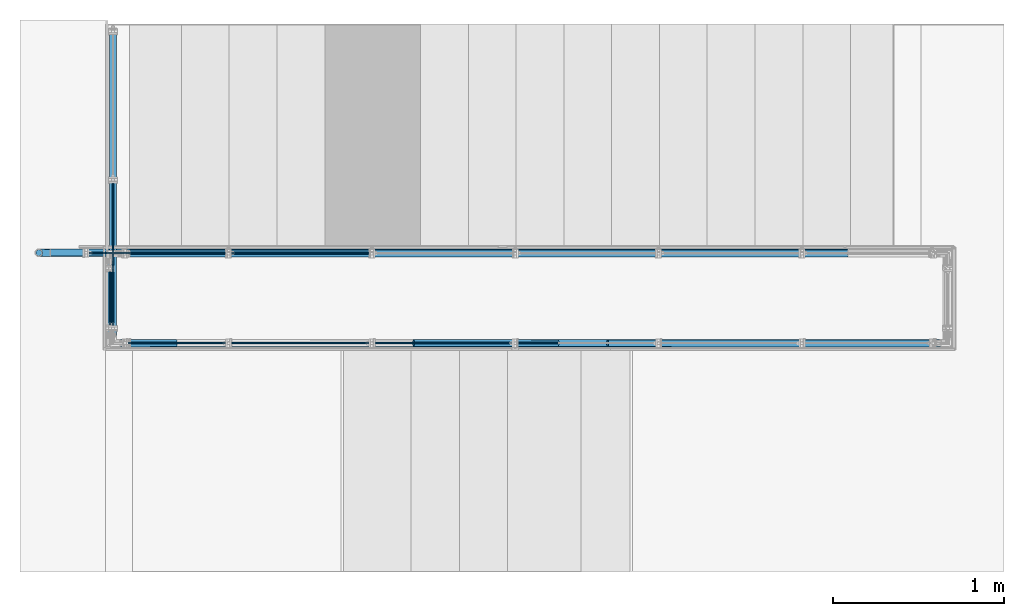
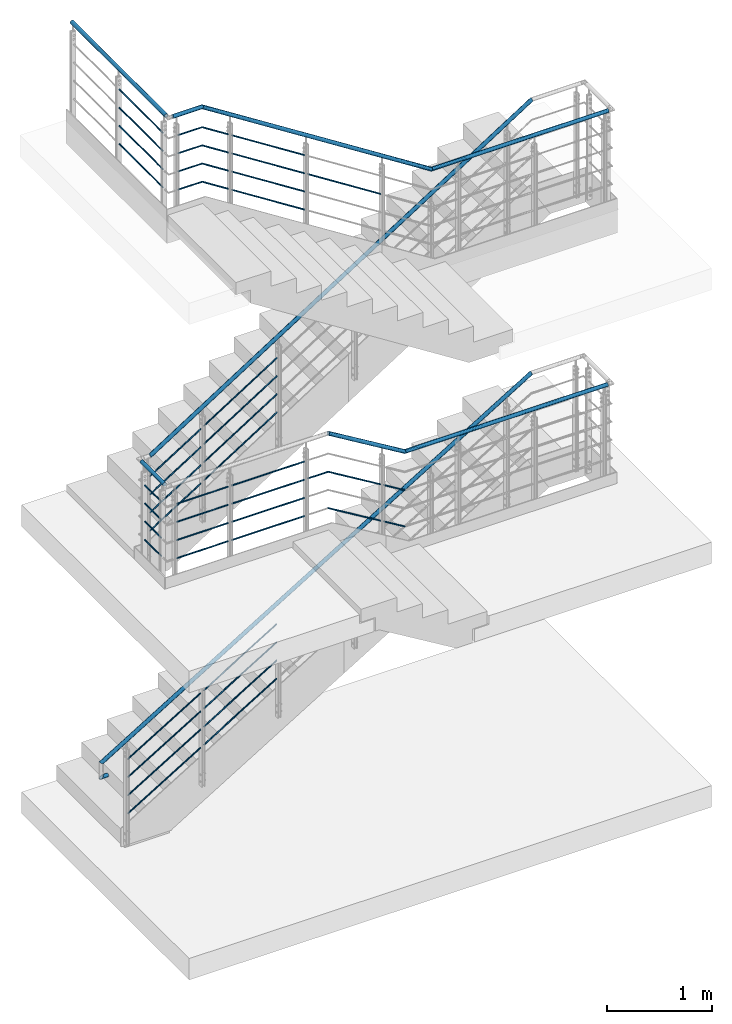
# One storey, part 12 of 98: 33 members, 27 beams.
"""IFC2X3 building model written with IfcOpenShell, lengths in millimetres."""

from ifc_helpers import new_model, entity, si_unit, converted_unit, frame, origin, origin_with_axes, origin_2d, place, context, project, spatial, circle, hollow_circle, extrude, clip, halfspace, material, element, save


model = new_model("IFC2X3")

# Units and contexts
model_context = context("Model", 3, precision=1e-09, world=origin_with_axes())
ifc_project = project(units=[si_unit("LENGTHUNIT", "METRE", prefix="MILLI"), si_unit("AREAUNIT", "SQUARE_METRE"), si_unit("VOLUMEUNIT", "CUBIC_METRE"), converted_unit("PLANEANGLEUNIT", "DEGREE", entity("IfcPlaneAngleMeasure", 0.01745329), si_unit("PLANEANGLEUNIT", "RADIAN"), dimensions=[0, 0, 0, 0, 0, 0, 0])], contexts=[model_context])

# Site, building, storey
site_placement = place(None, origin_with_axes())
site = spatial("IfcSite", under=ifc_project, at=site_placement, Name="Maybachstra?e 2, 71563 Affalterbach", CompositionType="ELEMENT")
building_placement = place(site_placement, origin_with_axes())
building = spatial("IfcBuilding", under=site, at=building_placement, Name="Struktur 1", CompositionType="ELEMENT")
storey_placement = place(building_placement, origin_with_axes())
storey = spatial("IfcBuildingStorey", under=building, at=storey_placement, Name="Default Storey", CompositionType="ELEMENT", Elevation=0.0)

# Beams
ifc_material_1 = material(Name="S235JR")
beam_1_placement = place(None, frame((7338.029157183, 368.75, 8323.799999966), z_axis=(0.0, 1.0, 0.0), x_axis=(0.0, 0.0, 1.0)))
element("IfcBeam", 1, at=beam_1_placement, inside=storey, material=ifc_material_1, Name="-", ObjectType="-", context=model_context, shape_type="SweptSolid", body=[
    extrude(circle(Radius=6.0, at=origin_2d()), origin(), (0.0, 0.0, -1.0), 833.5),
])
beam_2_placement = place(None, frame((7321.028157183, -150.25, 4028.8), z_axis=(0.0, 1.0, 0.0), x_axis=(0.0, 0.0, 1.0)))
element("IfcBeam", 2, at=beam_2_placement, inside=storey, material=ifc_material_1, Name="-", ObjectType="-", context=model_context, shape_type="SweptSolid", body=[
    extrude(circle(Radius=6.0, at=origin_2d()), origin(), (0.0, 0.0, -1.0), 313.5),
])

# Members
member_1_placement = place(None, frame((9091.590543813, -569.0, 4033.347068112), z_axis=(-0.856417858, 0.0, 0.516283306), x_axis=(-0.516283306, 0.0, -0.856417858)))
element("IfcMember", 3, at=member_1_placement, inside=storey, material=ifc_material_1, Name="-", ObjectType="-", context=model_context, shape_type="Clipping", body=[
    clip(clip(extrude(circle(Radius=6.0, at=origin_2d()), origin(), (0.0, 0.0, -1.0), 693.205879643), halfspace(frame((6088.433172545, -569.0, -1702.045889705), z_axis=(-0.267938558, 0.0, -0.963436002), x_axis=(0.0, -1.0, 0.0)), True)), halfspace(frame((3152.107861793, -569.0, -2583.514881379), z_axis=(0.516283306, 0.0, 0.856417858), x_axis=(0.0, 1.0, 0.0)), True)),
])
member_2_placement = place(None, frame((9704.793875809, -569.0, 3663.683310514), z_axis=(-0.856417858, 0.0, 0.516283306), x_axis=(-0.516283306, 0.0, -0.856417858)))
element("IfcMember", 4, at=member_2_placement, inside=storey, material=ifc_material_1, Name="-", ObjectType="-", context=model_context, shape_type="Clipping", body=[
    clip(clip(extrude(circle(Radius=6.0, at=origin_2d()), origin(), (0.0, 0.0, -1.0), 289.434844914), halfspace(frame((5833.433708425, -569.0, -1902.946829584), z_axis=(0.267938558, 0.0, 0.963436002), x_axis=(0.0, 1.0, 0.0)), True)), halfspace(frame((3133.262488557, -569.0, -1898.766334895), z_axis=(-0.516283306, 0.0, -0.856417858), x_axis=(0.0, -1.0, 0.0)), True)),
])

# Beam
beam_3_placement = place(None, frame((7443.279157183, -570.0, 8323.799999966), z_axis=(-1.0, 0.0, 0.0), x_axis=(0.0, 0.0, -1.0)))
element("IfcBeam", 5, at=beam_3_placement, inside=storey, material=ifc_material_1, Name="-", ObjectType="-", context=model_context, shape_type="Clipping", body=[
    clip(extrude(circle(Radius=6.0, at=origin_2d()), origin(), (0.0, 0.0, -1.0), 274.401488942), halfspace(frame((9743.592646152, -570.0, 2577.585409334), z_axis=(-0.280114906, 0.0, 0.959966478), x_axis=(0.0, 1.0, 0.0)), True)),
])

# Members
member_3_placement = place(None, frame((7701.389474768, -570.0, 8328.553707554), z_axis=(-0.843071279, 0.0, 0.53780184), x_axis=(-0.53780184, 0.0, -0.843071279)))
element("IfcMember", 6, at=member_3_placement, inside=storey, material=ifc_material_1, Name="-", ObjectType="-", context=model_context, shape_type="Clipping", body=[
    clip(clip(extrude(circle(Radius=6.0, at=origin_2d()), origin(), (0.0, 0.0, -1.0), 360.438045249), halfspace(frame((9743.59264615, -570.0, -2851.986898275), z_axis=(-0.280114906, 0.0, -0.959966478), x_axis=(0.0, -1.0, 0.0)), True)), halfspace(frame((6862.703849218, -570.0, -4728.145218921), z_axis=(0.53780184, 0.0, 0.843071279), x_axis=(0.0, 1.0, 0.0)), True)),
])
member_4_placement = place(None, frame((8024.793875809, -570.0, 8122.251481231), z_axis=(-0.843071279, 0.0, 0.53780184), x_axis=(-0.53780184, 0.0, -0.843071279)))
element("IfcMember", 7, at=member_4_placement, inside=storey, material=ifc_material_1, Name="-", ObjectType="-", context=model_context, shape_type="Clipping", body=[
    clip(clip(extrude(circle(Radius=6.0, at=origin_2d()), origin(), (0.0, 0.0, -1.0), 973.192401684), halfspace(frame((6843.073006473, -570.0, -4375.316327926), z_axis=(-0.53780184, 0.0, -0.843071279), x_axis=(0.0, -1.0, 0.0)), True)), halfspace(frame((6410.950304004, -570.0, -5052.722414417), z_axis=(0.53780184, 0.0, 0.843071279), x_axis=(0.0, 1.0, 0.0)), True)),
])
member_5_placement = place(None, frame((8864.793875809, -570.0, 7586.40883483), z_axis=(-0.843071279, 0.0, 0.53780184), x_axis=(-0.53780184, 0.0, -0.843071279)))
element("IfcMember", 8, at=member_5_placement, inside=storey, material=ifc_material_1, Name="-", ObjectType="-", context=model_context, shape_type="Clipping", body=[
    clip(clip(extrude(circle(Radius=6.0, at=origin_2d()), origin(), (0.0, 0.0, -1.0), 973.192401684), halfspace(frame((6391.319461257, -570.0, -4087.139166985), z_axis=(-0.53780184, 0.0, -0.843071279), x_axis=(0.0, -1.0, 0.0)), True)), halfspace(frame((5959.196758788, -570.0, -4764.545253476), z_axis=(0.53780184, 0.0, 0.843071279), x_axis=(0.0, 1.0, 0.0)), True)),
])
member_6_placement = place(None, frame((8845.264438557, -40.0, 1814.617125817), z_axis=(0.854279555, 0.0, 0.519813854), x_axis=(0.0, 1.0, 0.0)))
element("IfcMember", 9, at=member_6_placement, inside=storey, material=ifc_material_1, Name="-", ObjectType="-", context=model_context, shape_type="Clipping", body=[
    clip(clip(extrude(circle(Radius=6.0, at=origin_2d()), origin(), (0.0, 0.0, -1.0), 960.423971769), halfspace(frame((40.0, -1545.779023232, -950.512778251), z_axis=(0.0, 0.519813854, -0.854279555), x_axis=(-1.0, 0.0, 0.0)), True)), halfspace(frame((40.0, -1128.109631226, -1636.924691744), z_axis=(0.0, -0.519813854, 0.854279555), x_axis=(1.0, 0.0, 0.0)), True)),
])
member_7_placement = place(None, frame((8005.264438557, -40.0, 1303.492125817), z_axis=(0.854279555, 0.0, 0.519813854), x_axis=(0.0, 1.0, 0.0)))
element("IfcMember", 10, at=member_7_placement, inside=storey, material=ifc_material_1, Name="-", ObjectType="-", context=model_context, shape_type="Clipping", body=[
    clip(clip(extrude(circle(Radius=6.0, at=origin_2d()), origin(), (0.0, 0.0, -1.0), 954.569916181), halfspace(frame((40.0, -694.065583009, -1366.962583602), z_axis=(0.0, -0.519813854, 0.854279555), x_axis=(1.0, 0.0, 0.0)), True)), halfspace(frame((40.0, -1109.13538593, -684.822922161), z_axis=(0.0, 0.519813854, -0.854279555), x_axis=(-1.0, 0.0, 0.0)), True)),
])
member_8_placement = place(None, frame((7428.543345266, -45.0, 4024.0533602), z_axis=(-0.843537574, 0.0, -0.537070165), x_axis=(0.0, -1.0, 0.0)))
element("IfcMember", 11, at=member_8_placement, inside=storey, material=ifc_material_1, Name="-", ObjectType="-", context=model_context, shape_type="Clipping", body=[
    clip(clip(extrude(circle(Radius=6.0, at=origin_2d()), origin(), (0.0, 0.0, -1.0), 683.693425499), halfspace(frame((-45.0, -1716.795884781, 491.307966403), z_axis=(0.0, -0.279698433, -0.960087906), x_axis=(-1.0, 0.0, 0.0)), True)), halfspace(frame((-45.0, -3699.62217186, 1681.871586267), z_axis=(0.0, 0.537070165, 0.843537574), x_axis=(1.0, 0.0, 0.0)), True)),
])
member_9_placement = place(None, frame((8024.793875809, -45.0, 4403.678857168), z_axis=(-0.843537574, 0.0, -0.537070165), x_axis=(0.0, -1.0, 0.0)))
element("IfcMember", 12, at=member_9_placement, inside=storey, material=ifc_material_1, Name="-", ObjectType="-", context=model_context, shape_type="Clipping", body=[
    clip(clip(extrude(circle(Radius=6.0, at=origin_2d()), origin(), (0.0, 0.0, -1.0), 972.654435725), halfspace(frame((-45.0, -4150.761110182, 1680.145278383), z_axis=(0.0, 0.537070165, 0.843537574), x_axis=(1.0, 0.0, 0.0)), True)), halfspace(frame((-45.0, -3719.226307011, 2357.926031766), z_axis=(0.0, -0.537070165, -0.843537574), x_axis=(-1.0, 0.0, 0.0)), True)),
])

# Beams
beam_4_placement = place(None, frame((7426.279157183, -569.0, 4028.8), z_axis=(-1.0, 0.0, 0.0), x_axis=(0.0, 0.0, -1.0)))
element("IfcBeam", 13, at=beam_4_placement, inside=storey, material=ifc_material_1, Name="-", ObjectType="-", context=model_context, shape_type="SweptSolid", body=[
    extrude(circle(Radius=6.0, at=origin_2d()), origin(), (0.0, 0.0, -1.0), 570.5),
])
beam_5_placement = place(None, frame((8033.279157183, -569.0, 4028.8), z_axis=(-1.0, 0.0, 0.0), x_axis=(0.0, 0.0, -1.0)))
element("IfcBeam", 14, at=beam_5_placement, inside=storey, material=ifc_material_1, Name="-", ObjectType="-", context=model_context, shape_type="SweptSolid", body=[
    extrude(circle(Radius=6.0, at=origin_2d()), origin(), (0.0, 0.0, -1.0), 803.5),
])
beam_6_placement = place(None, frame((8873.279157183, -569.0, 4028.8), z_axis=(-1.0, 0.0, 0.0), x_axis=(0.0, 0.0, -1.0)))
element("IfcBeam", 15, at=beam_6_placement, inside=storey, material=ifc_material_1, Name="-", ObjectType="-", context=model_context, shape_type="Clipping", body=[
    clip(extrude(circle(Radius=6.0, at=origin_2d()), origin(), (0.0, 0.0, -1.0), 234.661437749), halfspace(frame((6088.433172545, -569.0, 1467.384451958), z_axis=(-0.267938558, 0.0, 0.963436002), x_axis=(0.0, 1.0, 0.0)), True)),
])
beam_7_placement = place(None, frame((7338.029157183, 368.75, 7899.799999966), z_axis=(0.0, 1.0, 0.0), x_axis=(0.0, 0.0, 1.0)))
element("IfcBeam", 16, at=beam_7_placement, inside=storey, material=ifc_material_1, Name="-", ObjectType="-", context=model_context, shape_type="SweptSolid", body=[
    extrude(circle(Radius=6.0, at=origin_2d()), origin(), (0.0, 0.0, -1.0), 833.5),
])
beam_8_placement = place(None, frame((7321.028157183, -150.25, 3604.8), z_axis=(0.0, 1.0, 0.0), x_axis=(0.0, 0.0, 1.0)))
element("IfcBeam", 17, at=beam_8_placement, inside=storey, material=ifc_material_1, Name="-", ObjectType="-", context=model_context, shape_type="SweptSolid", body=[
    extrude(circle(Radius=6.0, at=origin_2d()), origin(), (0.0, 0.0, -1.0), 313.5),
])

# Members
member_10_placement = place(None, frame((9091.590543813, -569.0, 3609.347068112), z_axis=(-0.856417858, 0.0, 0.516283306), x_axis=(-0.516283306, 0.0, -0.856417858)))
element("IfcMember", 18, at=member_10_placement, inside=storey, material=ifc_material_1, Name="-", ObjectType="-", context=model_context, shape_type="Clipping", body=[
    clip(clip(extrude(circle(Radius=6.0, at=origin_2d()), origin(), (0.0, 0.0, -1.0), 693.205879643), halfspace(frame((5694.872586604, -569.0, -1592.593828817), z_axis=(-0.267938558, 0.0, -0.963436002), x_axis=(0.0, -1.0, 0.0)), True)), halfspace(frame((2788.986689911, -569.0, -2364.610759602), z_axis=(0.516283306, 0.0, 0.856417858), x_axis=(0.0, 1.0, 0.0)), True)),
])
member_11_placement = place(None, frame((9704.793875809, -569.0, 3239.683310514), z_axis=(-0.856417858, 0.0, 0.516283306), x_axis=(-0.516283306, 0.0, -0.856417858)))
element("IfcMember", 19, at=member_11_placement, inside=storey, material=ifc_material_1, Name="-", ObjectType="-", context=model_context, shape_type="Clipping", body=[
    clip(clip(extrude(circle(Radius=6.0, at=origin_2d()), origin(), (0.0, 0.0, -1.0), 289.434844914), halfspace(frame((5439.873122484, -569.0, -1793.494768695), z_axis=(0.267938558, 0.0, 0.963436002), x_axis=(0.0, 1.0, 0.0)), True)), halfspace(frame((2770.141316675, -569.0, -1679.862213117), z_axis=(-0.516283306, 0.0, -0.856417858), x_axis=(0.0, -1.0, 0.0)), True)),
])

# Beam
beam_9_placement = place(None, frame((7443.279157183, -570.0, 7899.799999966), z_axis=(-1.0, 0.0, 0.0), x_axis=(0.0, 0.0, -1.0)))
element("IfcBeam", 20, at=beam_9_placement, inside=storey, material=ifc_material_1, Name="-", ObjectType="-", context=model_context, shape_type="Clipping", body=[
    clip(extrude(circle(Radius=6.0, at=origin_2d()), origin(), (0.0, 0.0, -1.0), 274.401488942), halfspace(frame((9352.861535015, -570.0, 2463.571419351), z_axis=(-0.280114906, 0.0, 0.959966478), x_axis=(0.0, 1.0, 0.0)), True)),
])

# Members
member_12_placement = place(None, frame((7701.389474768, -570.0, 7904.553707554), z_axis=(-0.843071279, 0.0, 0.53780184), x_axis=(-0.53780184, 0.0, -0.843071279)))
element("IfcMember", 21, at=member_12_placement, inside=storey, material=ifc_material_1, Name="-", ObjectType="-", context=model_context, shape_type="Clipping", body=[
    clip(clip(extrude(circle(Radius=6.0, at=origin_2d()), origin(), (0.0, 0.0, -1.0), 360.438045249), halfspace(frame((9352.861535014, -570.0, -2737.972908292), z_axis=(-0.280114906, 0.0, -0.959966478), x_axis=(0.0, -1.0, 0.0)), True)), halfspace(frame((6505.241626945, -570.0, -4500.117238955), z_axis=(0.53780184, 0.0, 0.843071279), x_axis=(0.0, 1.0, 0.0)), True)),
])
member_13_placement = place(None, frame((8024.793875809, -570.0, 7698.251481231), z_axis=(-0.843071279, 0.0, 0.53780184), x_axis=(-0.53780184, 0.0, -0.843071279)))
element("IfcMember", 22, at=member_13_placement, inside=storey, material=ifc_material_1, Name="-", ObjectType="-", context=model_context, shape_type="Clipping", body=[
    clip(clip(extrude(circle(Radius=6.0, at=origin_2d()), origin(), (0.0, 0.0, -1.0), 973.192401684), halfspace(frame((6485.6107842, -570.0, -4147.288347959), z_axis=(-0.53780184, 0.0, -0.843071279), x_axis=(0.0, -1.0, 0.0)), True)), halfspace(frame((6053.488081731, -570.0, -4824.69443445), z_axis=(0.53780184, 0.0, 0.843071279), x_axis=(0.0, 1.0, 0.0)), True)),
])
member_14_placement = place(None, frame((8845.264438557, -40.0, 1390.617125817), z_axis=(0.854279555, 0.0, 0.519813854), x_axis=(0.0, 1.0, 0.0)))
element("IfcMember", 23, at=member_14_placement, inside=storey, material=ifc_material_1, Name="-", ObjectType="-", context=model_context, shape_type="Clipping", body=[
    clip(clip(extrude(circle(Radius=6.0, at=origin_2d()), origin(), (0.0, 0.0, -1.0), 960.423971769), halfspace(frame((40.0, -1183.564492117, -730.111704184), z_axis=(0.0, 0.519813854, -0.854279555), x_axis=(-1.0, 0.0, 0.0)), True)), halfspace(frame((40.0, -765.895100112, -1416.523617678), z_axis=(0.0, -0.519813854, 0.854279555), x_axis=(1.0, 0.0, 0.0)), True)),
])
member_15_placement = place(None, frame((8005.264438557, -40.0, 879.492125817), z_axis=(0.854279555, 0.0, 0.519813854), x_axis=(0.0, 1.0, 0.0)))
element("IfcMember", 24, at=member_15_placement, inside=storey, material=ifc_material_1, Name="-", ObjectType="-", context=model_context, shape_type="Clipping", body=[
    clip(clip(extrude(circle(Radius=6.0, at=origin_2d()), origin(), (0.0, 0.0, -1.0), 954.569916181), halfspace(frame((40.0, -331.851051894, -1146.561509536), z_axis=(0.0, -0.519813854, 0.854279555), x_axis=(1.0, 0.0, 0.0)), True)), halfspace(frame((40.0, -746.920854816, -464.421848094), z_axis=(0.0, 0.519813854, -0.854279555), x_axis=(-1.0, 0.0, 0.0)), True)),
])
member_16_placement = place(None, frame((7428.543345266, -45.0, 3600.0533602), z_axis=(-0.843537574, 0.0, -0.537070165), x_axis=(0.0, -1.0, 0.0)))
element("IfcMember", 25, at=member_16_placement, inside=storey, material=ifc_material_1, Name="-", ObjectType="-", context=model_context, shape_type="Clipping", body=[
    clip(clip(extrude(circle(Radius=6.0, at=origin_2d()), origin(), (0.0, 0.0, -1.0), 683.693425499), halfspace(frame((-45.0, -1325.965919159, 377.449091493), z_axis=(0.0, -0.279698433, -0.960087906), x_axis=(-1.0, 0.0, 0.0)), True)), halfspace(frame((-45.0, -3341.962240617, 1454.153836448), z_axis=(0.0, 0.537070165, 0.843537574), x_axis=(1.0, 0.0, 0.0)), True)),
])
member_17_placement = place(None, frame((8024.793875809, -45.0, 3979.678857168), z_axis=(-0.843537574, 0.0, -0.537070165), x_axis=(0.0, -1.0, 0.0)))
element("IfcMember", 26, at=member_17_placement, inside=storey, material=ifc_material_1, Name="-", ObjectType="-", context=model_context, shape_type="Clipping", body=[
    clip(clip(extrude(circle(Radius=6.0, at=origin_2d()), origin(), (0.0, 0.0, -1.0), 972.654435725), halfspace(frame((-45.0, -3793.101178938, 1452.427528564), z_axis=(0.0, 0.537070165, 0.843537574), x_axis=(1.0, 0.0, 0.0)), True)), halfspace(frame((-45.0, -3361.566375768, 2130.208281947), z_axis=(0.0, -0.537070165, -0.843537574), x_axis=(-1.0, 0.0, 0.0)), True)),
])

# Beams
beam_10_placement = place(None, frame((7426.279157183, -569.0, 3604.8), z_axis=(-1.0, 0.0, 0.0), x_axis=(0.0, 0.0, -1.0)))
element("IfcBeam", 27, at=beam_10_placement, inside=storey, material=ifc_material_1, Name="-", ObjectType="-", context=model_context, shape_type="SweptSolid", body=[
    extrude(circle(Radius=6.0, at=origin_2d()), origin(), (0.0, 0.0, -1.0), 570.5),
])
beam_11_placement = place(None, frame((8033.279157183, -569.0, 3604.8), z_axis=(-1.0, 0.0, 0.0), x_axis=(0.0, 0.0, -1.0)))
element("IfcBeam", 28, at=beam_11_placement, inside=storey, material=ifc_material_1, Name="-", ObjectType="-", context=model_context, shape_type="SweptSolid", body=[
    extrude(circle(Radius=6.0, at=origin_2d()), origin(), (0.0, 0.0, -1.0), 803.5),
])
beam_12_placement = place(None, frame((7338.029157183, 368.75, 8111.799999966), z_axis=(0.0, 1.0, 0.0), x_axis=(0.0, 0.0, 1.0)))
element("IfcBeam", 29, at=beam_12_placement, inside=storey, material=ifc_material_1, Name="-", ObjectType="-", context=model_context, shape_type="SweptSolid", body=[
    extrude(circle(Radius=6.0, at=origin_2d()), origin(), (0.0, 0.0, -1.0), 833.5),
])
beam_13_placement = place(None, frame((7321.028157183, -150.25, 3816.8), z_axis=(0.0, 1.0, 0.0), x_axis=(0.0, 0.0, 1.0)))
element("IfcBeam", 30, at=beam_13_placement, inside=storey, material=ifc_material_1, Name="-", ObjectType="-", context=model_context, shape_type="SweptSolid", body=[
    extrude(circle(Radius=6.0, at=origin_2d()), origin(), (0.0, 0.0, -1.0), 313.5),
])
beam_14_placement = place(None, frame((7443.279157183, -570.0, 8111.799999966), z_axis=(-1.0, 0.0, 0.0), x_axis=(0.0, 0.0, -1.0)))
element("IfcBeam", 31, at=beam_14_placement, inside=storey, material=ifc_material_1, Name="-", ObjectType="-", context=model_context, shape_type="Clipping", body=[
    clip(extrude(circle(Radius=6.0, at=origin_2d()), origin(), (0.0, 0.0, -1.0), 274.401488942), halfspace(frame((9548.227090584, -570.0, 2520.578414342), z_axis=(-0.280114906, 0.0, 0.959966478), x_axis=(0.0, 1.0, 0.0)), True)),
])

# Members
member_18_placement = place(None, frame((7701.389474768, -570.0, 8116.553707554), z_axis=(-0.843071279, 0.0, 0.53780184), x_axis=(-0.53780184, 0.0, -0.843071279)))
element("IfcMember", 32, at=member_18_placement, inside=storey, material=ifc_material_1, Name="-", ObjectType="-", context=model_context, shape_type="Clipping", body=[
    clip(clip(extrude(circle(Radius=6.0, at=origin_2d()), origin(), (0.0, 0.0, -1.0), 360.438045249), halfspace(frame((9548.227090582, -570.0, -2794.979903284), z_axis=(-0.280114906, 0.0, -0.959966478), x_axis=(0.0, -1.0, 0.0)), True)), halfspace(frame((6683.972738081, -570.0, -4614.131228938), z_axis=(0.53780184, 0.0, 0.843071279), x_axis=(0.0, 1.0, 0.0)), True)),
])
member_19_placement = place(None, frame((8024.793875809, -570.0, 7910.251481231), z_axis=(-0.843071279, 0.0, 0.53780184), x_axis=(-0.53780184, 0.0, -0.843071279)))
element("IfcMember", 33, at=member_19_placement, inside=storey, material=ifc_material_1, Name="-", ObjectType="-", context=model_context, shape_type="Clipping", body=[
    clip(clip(extrude(circle(Radius=6.0, at=origin_2d()), origin(), (0.0, 0.0, -1.0), 973.192401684), halfspace(frame((6664.341895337, -570.0, -4261.302337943), z_axis=(-0.53780184, 0.0, -0.843071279), x_axis=(0.0, -1.0, 0.0)), True)), halfspace(frame((6232.219192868, -570.0, -4938.708424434), z_axis=(0.53780184, 0.0, 0.843071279), x_axis=(0.0, 1.0, 0.0)), True)),
])
member_20_placement = place(None, frame((8845.264438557, -40.0, 1602.617125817), z_axis=(0.854279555, 0.0, 0.519813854), x_axis=(0.0, 1.0, 0.0)))
element("IfcMember", 34, at=member_20_placement, inside=storey, material=ifc_material_1, Name="-", ObjectType="-", context=model_context, shape_type="Clipping", body=[
    clip(clip(extrude(circle(Radius=6.0, at=origin_2d()), origin(), (0.0, 0.0, -1.0), 960.423971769), halfspace(frame((40.0, -1364.671757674, -840.312241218), z_axis=(0.0, 0.519813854, -0.854279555), x_axis=(-1.0, 0.0, 0.0)), True)), halfspace(frame((40.0, -947.002365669, -1526.724154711), z_axis=(0.0, -0.519813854, 0.854279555), x_axis=(1.0, 0.0, 0.0)), True)),
])
member_21_placement = place(None, frame((8005.264438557, -40.0, 1091.492125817), z_axis=(0.854279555, 0.0, 0.519813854), x_axis=(0.0, 1.0, 0.0)))
element("IfcMember", 35, at=member_21_placement, inside=storey, material=ifc_material_1, Name="-", ObjectType="-", context=model_context, shape_type="Clipping", body=[
    clip(clip(extrude(circle(Radius=6.0, at=origin_2d()), origin(), (0.0, 0.0, -1.0), 954.569916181), halfspace(frame((40.0, -512.958317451, -1256.762046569), z_axis=(0.0, -0.519813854, 0.854279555), x_axis=(1.0, 0.0, 0.0)), True)), halfspace(frame((40.0, -928.028120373, -574.622385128), z_axis=(0.0, 0.519813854, -0.854279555), x_axis=(-1.0, 0.0, 0.0)), True)),
])
member_22_placement = place(None, frame((7428.543345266, -45.0, 3812.0533602), z_axis=(-0.843537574, 0.0, -0.537070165), x_axis=(0.0, -1.0, 0.0)))
element("IfcMember", 36, at=member_22_placement, inside=storey, material=ifc_material_1, Name="-", ObjectType="-", context=model_context, shape_type="Clipping", body=[
    clip(clip(extrude(circle(Radius=6.0, at=origin_2d()), origin(), (0.0, 0.0, -1.0), 683.693425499), halfspace(frame((-45.0, -1521.38090197, 434.378528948), z_axis=(0.0, -0.279698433, -0.960087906), x_axis=(-1.0, 0.0, 0.0)), True)), halfspace(frame((-45.0, -3520.792206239, 1568.012711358), z_axis=(0.0, 0.537070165, 0.843537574), x_axis=(1.0, 0.0, 0.0)), True)),
])
member_23_placement = place(None, frame((8024.793875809, -45.0, 4191.678857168), z_axis=(-0.843537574, 0.0, -0.537070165), x_axis=(0.0, -1.0, 0.0)))
element("IfcMember", 37, at=member_23_placement, inside=storey, material=ifc_material_1, Name="-", ObjectType="-", context=model_context, shape_type="Clipping", body=[
    clip(clip(extrude(circle(Radius=6.0, at=origin_2d()), origin(), (0.0, 0.0, -1.0), 972.654435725), halfspace(frame((-45.0, -3971.93114456, 1566.286403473), z_axis=(0.0, 0.537070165, 0.843537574), x_axis=(1.0, 0.0, 0.0)), True)), halfspace(frame((-45.0, -3540.396341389, 2244.067156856), z_axis=(0.0, -0.537070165, -0.843537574), x_axis=(-1.0, 0.0, 0.0)), True)),
])

# Beams
beam_15_placement = place(None, frame((7426.279157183, -569.0, 3816.8), z_axis=(-1.0, 0.0, 0.0), x_axis=(0.0, 0.0, -1.0)))
element("IfcBeam", 38, at=beam_15_placement, inside=storey, material=ifc_material_1, Name="-", ObjectType="-", context=model_context, shape_type="SweptSolid", body=[
    extrude(circle(Radius=6.0, at=origin_2d()), origin(), (0.0, 0.0, -1.0), 570.5),
])
beam_16_placement = place(None, frame((8033.279157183, -569.0, 3816.8), z_axis=(-1.0, 0.0, 0.0), x_axis=(0.0, 0.0, -1.0)))
element("IfcBeam", 39, at=beam_16_placement, inside=storey, material=ifc_material_1, Name="-", ObjectType="-", context=model_context, shape_type="SweptSolid", body=[
    extrude(circle(Radius=6.0, at=origin_2d()), origin(), (0.0, 0.0, -1.0), 803.5),
])
ifc_material_2 = material(Name="1.4301")
beam_17_placement = place(None, frame((7321.028157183, -88.8, 4478.8), z_axis=(0.0, 1.0, 0.0), x_axis=(0.0, 0.0, 1.0)))
element("IfcBeam", 40, at=beam_17_placement, inside=storey, material=ifc_material_2, Name="Hand_Rail", ObjectType="Hand_Rail", context=model_context, shape_type="SweptSolid", body=[
    extrude(hollow_circle(Radius=21.2, WallThickness=3.0, at=origin_2d()), origin(), (0.0, 0.0, -1.0), 436.4),
])
beam_18_placement = place(None, frame((7338.029157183, 1274.75, 8773.799999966), z_axis=(0.0, 1.0, 0.0), x_axis=(0.0, 0.0, 1.0)))
element("IfcBeam", 41, at=beam_18_placement, inside=storey, material=ifc_material_2, Name="Hand_Rail", ObjectType="Hand_Rail", context=model_context, shape_type="SweptSolid", body=[
    extrude(hollow_circle(Radius=21.2, WallThickness=3.0, at=origin_2d()), origin(), (0.0, 0.0, -1.0), 1800.95),
])
beam_19_placement = place(None, frame((6861.080157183, -40.0, 916.19132919), z_axis=(-1.0, 0.0, 0.0), x_axis=(0.0, 1.0, 0.0)))
element("IfcBeam", 42, at=beam_19_placement, inside=storey, material=ifc_material_2, Name="-", ObjectType="-", context=model_context, shape_type="Clipping", body=[
    clip(extrude(hollow_circle(Radius=21.2, WallThickness=3.0, at=origin_2d()), origin(), (0.0, 0.0, -1.0), 111.2), halfspace(frame((40.0, 3909.836450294, 3867.43503608), z_axis=(0.0, 0.707106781, -0.707106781), x_axis=(1.0, 0.0, 0.0)), True)),
])
beam_20_placement = place(None, frame((7381.829157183, -570.0, 8773.799999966), z_axis=(-1.0, 0.0, 0.0), x_axis=(0.0, 0.0, -1.0)))
element("IfcBeam", 43, at=beam_20_placement, inside=storey, material=ifc_material_2, Name="-", ObjectType="-", context=model_context, shape_type="Clipping", body=[
    clip(extrude(hollow_circle(Radius=21.2, WallThickness=3.0, at=origin_2d()), origin(), (0.0, 0.0, -1.0), 358.24398559), halfspace(frame((10158.283683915, -570.0, 2637.140823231), z_axis=(-0.280114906, 0.0, 0.959966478), x_axis=(0.0, 1.0, 0.0)), True)),
])

# Member
member_24_placement = place(None, frame((7682.51100398, -570.0, 8790.596433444), z_axis=(-0.843071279, 0.0, 0.53780184), x_axis=(-0.53780184, 0.0, -0.843071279)))
element("IfcMember", 44, at=member_24_placement, inside=storey, material=ifc_material_2, Name="Hand_Rail", ObjectType="Hand_Rail", context=model_context, shape_type="Clipping", body=[
    clip(clip(extrude(hollow_circle(Radius=21.2, WallThickness=3.0, at=origin_2d()), origin(), (0.0, 0.0, -1.0), 3060.779539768), halfspace(frame((9352.034244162, -570.0, -5758.438180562), z_axis=(0.280114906, 0.0, 0.959966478), x_axis=(0.0, 1.0, 0.0)), True)), halfspace(frame((10158.283683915, -570.0, -2995.384808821), z_axis=(-0.280114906, 0.0, -0.959966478), x_axis=(0.0, -1.0, 0.0)), True)),
])

# Beam
beam_21_placement = place(None, frame((10205.404186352, -570.0, 7161.3), z_axis=(-1.0, 0.0, 0.0), x_axis=(0.0, 0.0, -1.0)))
element("IfcBeam", 45, at=beam_21_placement, inside=storey, material=ifc_material_2, Name="-", ObjectType="-", context=model_context, shape_type="Clipping", body=[
    clip(extrude(hollow_circle(Radius=21.2, WallThickness=3.0, at=origin_2d()), origin(), (0.0, 0.0, -1.0), 1981.827970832), halfspace(frame((9352.034244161, -570.0, 2697.658640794), z_axis=(0.280114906, 0.0, -0.959966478), x_axis=(0.0, -1.0, 0.0)), True)),
])

# Member
member_25_placement = place(None, frame((9072.48227116, -569.0, 4494.86630733), z_axis=(-0.856417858, 0.0, 0.516283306), x_axis=(-0.516283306, 0.0, -0.856417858)))
element("IfcMember", 46, at=member_25_placement, inside=storey, material=ifc_material_2, Name="-", ObjectType="-", context=model_context, shape_type="Clipping", body=[
    clip(clip(extrude(hollow_circle(Radius=21.2, WallThickness=3.0, at=origin_2d()), origin(), (0.0, 0.0, -1.0), 1050.068069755), halfspace(frame((6506.127190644, -569.0, -1840.52149042), z_axis=(-0.267938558, 0.0, -0.963436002), x_axis=(0.0, -1.0, 0.0)), True)), halfspace(frame((6251.127726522, -569.0, -2757.431941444), z_axis=(0.267938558, 0.0, 0.963436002), x_axis=(0.0, 1.0, 0.0)), True)),
])

# Beam
beam_22_placement = place(None, frame((9914.009137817, -569.0, 3968.8), z_axis=(-1.0, 0.0, 0.0), x_axis=(0.0, 0.0, -1.0)))
element("IfcBeam", 47, at=beam_22_placement, inside=storey, material=ifc_material_2, Name="Hand_Rail", ObjectType="Hand_Rail", context=model_context, shape_type="Clipping", body=[
    clip(extrude(hollow_circle(Radius=21.2, WallThickness=3.0, at=origin_2d()), origin(), (0.0, 0.0, -1.0), 2266.223019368), halfspace(frame((6251.127726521, -569.0, 1707.363871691), z_axis=(0.267938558, 0.0, -0.963436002), x_axis=(0.0, -1.0, 0.0)), True)),
])

# Members
member_26_placement = place(None, frame((7409.656821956, -45.0, 4462.028539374), z_axis=(-0.843537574, 0.0, -0.537070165), x_axis=(0.0, -1.0, 0.0)))
element("IfcMember", 48, at=member_26_placement, inside=storey, material=ifc_material_2, Name="Hand_Rail", ObjectType="Hand_Rail", context=model_context, shape_type="Clipping", body=[
    clip(clip(extrude(hollow_circle(Radius=21.2, WallThickness=3.0, at=origin_2d()), origin(), (0.0, 0.0, -1.0), 5057.147277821), halfspace(frame((-45.0, -3472.841279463, -4014.190082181), z_axis=(0.0, 0.279698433, 0.960087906), x_axis=(1.0, 0.0, 0.0)), True)), halfspace(frame((-45.0, -2131.591838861, 589.759088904), z_axis=(0.0, -0.279698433, -0.960087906), x_axis=(-1.0, 0.0, 0.0)), True)),
])
member_27_placement = place(None, frame((11672.57563198, -40.0, 3984.985499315), z_axis=(0.854279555, 0.0, 0.519813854), x_axis=(0.0, 1.0, 0.0)))
element("IfcMember", 49, at=member_27_placement, inside=storey, material=ifc_material_2, Name="Hand_Rail", ObjectType="Hand_Rail", context=model_context, shape_type="Clipping", body=[
    clip(clip(extrude(hollow_circle(Radius=21.2, WallThickness=3.0, at=origin_2d()), origin(), (0.0, 0.0, -1.0), 5616.986531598), halfspace(frame((40.0, -652.762286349, -214.128287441), z_axis=(0.0, 0.269926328, -0.962880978), x_axis=(-1.0, 0.0, 0.0)), True)), halfspace(frame((40.0, 4783.378012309, -8271.30452835), z_axis=(0.0, 0.489992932, 0.871726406), x_axis=(1.0, 0.0, 0.0)), True)),
])

# Beam
beam_23_placement = place(None, frame((7443.279157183, -570.0, 8535.799999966), z_axis=(-1.0, 0.0, 0.0), x_axis=(0.0, 0.0, -1.0)))
element("IfcBeam", 50, at=beam_23_placement, inside=storey, material=ifc_material_1, Name="-", ObjectType="-", context=model_context, shape_type="Clipping", body=[
    clip(extrude(circle(Radius=6.0, at=origin_2d()), origin(), (0.0, 0.0, -1.0), 274.401488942), halfspace(frame((9938.95820172, -570.0, 2634.592404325), z_axis=(-0.280114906, 0.0, 0.959966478), x_axis=(0.0, 1.0, 0.0)), True)),
])

# Members
member_28_placement = place(None, frame((7701.389474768, -570.0, 8540.553707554), z_axis=(-0.843071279, 0.0, 0.53780184), x_axis=(-0.53780184, 0.0, -0.843071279)))
element("IfcMember", 51, at=member_28_placement, inside=storey, material=ifc_material_1, Name="-", ObjectType="-", context=model_context, shape_type="Clipping", body=[
    clip(clip(extrude(circle(Radius=6.0, at=origin_2d()), origin(), (0.0, 0.0, -1.0), 360.438045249), halfspace(frame((9938.958201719, -570.0, -2908.993893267), z_axis=(-0.280114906, 0.0, -0.959966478), x_axis=(0.0, -1.0, 0.0)), True)), halfspace(frame((7041.434960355, -570.0, -4842.159208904), z_axis=(0.53780184, 0.0, 0.843071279), x_axis=(0.0, 1.0, 0.0)), True)),
])
member_29_placement = place(None, frame((8024.793875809, -570.0, 8334.251481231), z_axis=(-0.843071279, 0.0, 0.53780184), x_axis=(-0.53780184, 0.0, -0.843071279)))
element("IfcMember", 52, at=member_29_placement, inside=storey, material=ifc_material_1, Name="-", ObjectType="-", context=model_context, shape_type="Clipping", body=[
    clip(clip(extrude(circle(Radius=6.0, at=origin_2d()), origin(), (0.0, 0.0, -1.0), 973.192401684), halfspace(frame((7021.80411761, -570.0, -4489.330317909), z_axis=(-0.53780184, 0.0, -0.843071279), x_axis=(0.0, -1.0, 0.0)), True)), halfspace(frame((6589.681415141, -570.0, -5166.7364044), z_axis=(0.53780184, 0.0, 0.843071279), x_axis=(0.0, 1.0, 0.0)), True)),
])
member_30_placement = place(None, frame((7428.543345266, -45.0, 4236.0533602), z_axis=(-0.843537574, 0.0, -0.537070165), x_axis=(0.0, -1.0, 0.0)))
element("IfcMember", 53, at=member_30_placement, inside=storey, material=ifc_material_1, Name="-", ObjectType="-", context=model_context, shape_type="Clipping", body=[
    clip(clip(extrude(circle(Radius=6.0, at=origin_2d()), origin(), (0.0, 0.0, -1.0), 683.693425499), halfspace(frame((-45.0, -1912.210867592, 548.237403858), z_axis=(0.0, -0.279698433, -0.960087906), x_axis=(-1.0, 0.0, 0.0)), True)), halfspace(frame((-45.0, -3878.452137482, 1795.730461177), z_axis=(0.0, 0.537070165, 0.843537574), x_axis=(1.0, 0.0, 0.0)), True)),
])
member_31_placement = place(None, frame((8024.793875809, -45.0, 4615.678857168), z_axis=(-0.843537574, 0.0, -0.537070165), x_axis=(0.0, -1.0, 0.0)))
element("IfcMember", 54, at=member_31_placement, inside=storey, material=ifc_material_1, Name="-", ObjectType="-", context=model_context, shape_type="Clipping", body=[
    clip(clip(extrude(circle(Radius=6.0, at=origin_2d()), origin(), (0.0, 0.0, -1.0), 972.654435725), halfspace(frame((-45.0, -4329.591075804, 1794.004153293), z_axis=(0.0, 0.537070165, 0.843537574), x_axis=(1.0, 0.0, 0.0)), True)), halfspace(frame((-45.0, -3898.056272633, 2471.784906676), z_axis=(0.0, -0.537070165, -0.843537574), x_axis=(-1.0, 0.0, 0.0)), True)),
])

# Beams
beam_24_placement = place(None, frame((7426.279157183, -569.0, 4240.8), z_axis=(-1.0, 0.0, 0.0), x_axis=(0.0, 0.0, -1.0)))
element("IfcBeam", 55, at=beam_24_placement, inside=storey, material=ifc_material_1, Name="-", ObjectType="-", context=model_context, shape_type="SweptSolid", body=[
    extrude(circle(Radius=6.0, at=origin_2d()), origin(), (0.0, 0.0, -1.0), 570.5),
])
beam_25_placement = place(None, frame((8033.279157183, -569.0, 4240.8), z_axis=(-1.0, 0.0, 0.0), x_axis=(0.0, 0.0, -1.0)))
element("IfcBeam", 56, at=beam_25_placement, inside=storey, material=ifc_material_1, Name="-", ObjectType="-", context=model_context, shape_type="SweptSolid", body=[
    extrude(circle(Radius=6.0, at=origin_2d()), origin(), (0.0, 0.0, -1.0), 803.5),
])

# Members
member_32_placement = place(None, frame((8845.264438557, -40.0, 2026.617125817), z_axis=(0.854279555, 0.0, 0.519813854), x_axis=(0.0, 1.0, 0.0)))
element("IfcMember", 57, at=member_32_placement, inside=storey, material=ifc_material_1, Name="-", ObjectType="-", context=model_context, shape_type="Clipping", body=[
    clip(clip(extrude(circle(Radius=6.0, at=origin_2d()), origin(), (0.0, 0.0, -1.0), 960.423971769), halfspace(frame((40.0, -1726.886288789, -1060.713315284), z_axis=(0.0, 0.519813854, -0.854279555), x_axis=(-1.0, 0.0, 0.0)), True)), halfspace(frame((40.0, -1309.216896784, -1747.125228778), z_axis=(0.0, -0.519813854, 0.854279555), x_axis=(1.0, 0.0, 0.0)), True)),
])
member_33_placement = place(None, frame((8005.264438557, -40.0, 1515.492125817), z_axis=(0.854279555, 0.0, 0.519813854), x_axis=(0.0, 1.0, 0.0)))
element("IfcMember", 58, at=member_33_placement, inside=storey, material=ifc_material_1, Name="-", ObjectType="-", context=model_context, shape_type="Clipping", body=[
    clip(clip(extrude(circle(Radius=6.0, at=origin_2d()), origin(), (0.0, 0.0, -1.0), 954.569916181), halfspace(frame((40.0, -875.172848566, -1477.163120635), z_axis=(0.0, -0.519813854, 0.854279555), x_axis=(1.0, 0.0, 0.0)), True)), halfspace(frame((40.0, -1290.242651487, -795.023459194), z_axis=(0.0, 0.519813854, -0.854279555), x_axis=(-1.0, 0.0, 0.0)), True)),
])

# Beams
beam_26_placement = place(None, frame((7338.029157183, 368.75, 8535.799999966), z_axis=(0.0, 1.0, 0.0), x_axis=(0.0, 0.0, 1.0)))
element("IfcBeam", 59, at=beam_26_placement, inside=storey, material=ifc_material_1, Name="-", ObjectType="-", context=model_context, shape_type="SweptSolid", body=[
    extrude(circle(Radius=6.0, at=origin_2d()), origin(), (0.0, 0.0, -1.0), 833.5),
])
beam_27_placement = place(None, frame((7321.028157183, -150.25, 4240.8), z_axis=(0.0, 1.0, 0.0), x_axis=(0.0, 0.0, 1.0)))
element("IfcBeam", 60, at=beam_27_placement, inside=storey, material=ifc_material_1, Name="-", ObjectType="-", context=model_context, shape_type="SweptSolid", body=[
    extrude(circle(Radius=6.0, at=origin_2d()), origin(), (0.0, 0.0, -1.0), 313.5),
])

save(model, "model.ifc")
